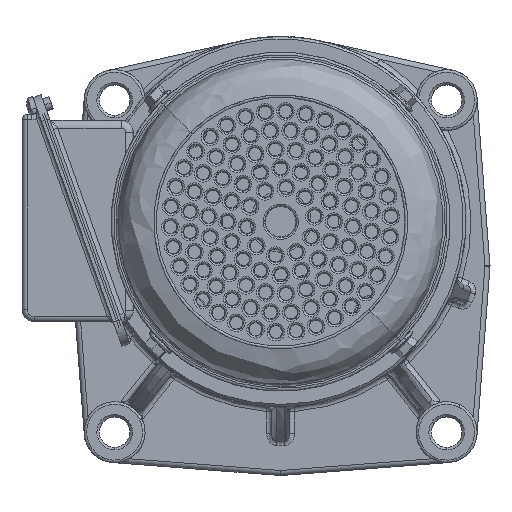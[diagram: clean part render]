
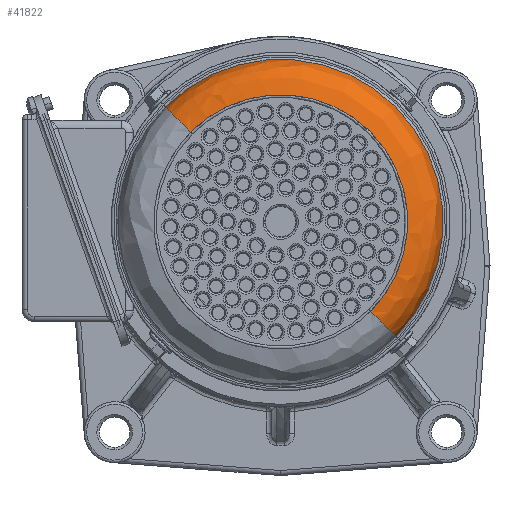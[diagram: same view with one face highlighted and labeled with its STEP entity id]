
A CAD part, front view. The second image highlights one B-rep face of the part: STEP entity #41822.
In plain terms, the highlighted free-form (B-spline) face has degree [3, 3] with [4, 4] control points.
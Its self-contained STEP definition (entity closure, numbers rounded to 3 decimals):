
#33180 = VERTEX_POINT ( 'NONE', #43461 ) ;
#33182 = VERTEX_POINT ( 'NONE', #43459 ) ;
#33185 = EDGE_CURVE ( 'NONE', #33187, #33182, #43455, .T. ) ;
#33187 = VERTEX_POINT ( 'NONE', #43447 ) ;
#33189 = VERTEX_POINT ( 'NONE', #43446 ) ;
#33294 = EDGE_CURVE ( 'NONE', #33189, #33180, #43788, .T. ) ;
#37432 = EDGE_CURVE ( 'NONE', #33182, #33180, #56438, .T. ) ;
#37600 = EDGE_CURVE ( 'NONE', #33189, #33187, #56772, .T. ) ;
#41822 = ADVANCED_FACE ( 'NONE', ( #64312 ), #64304, .T. ) ;
#41824 = EDGE_LOOP ( 'NONE', ( #41825, #41826, #41827, #41828 ) ) ;
#41825 = ORIENTED_EDGE ( 'NONE', *, *, #33185, .F. ) ;
#41826 = ORIENTED_EDGE ( 'NONE', *, *, #37600, .F. ) ;
#41827 = ORIENTED_EDGE ( 'NONE', *, *, #33294, .T. ) ;
#41828 = ORIENTED_EDGE ( 'NONE', *, *, #37432, .F. ) ;
#43446 = CARTESIAN_POINT ( 'NONE',  ( 50., 0., 43. ) ) ;
#43447 = CARTESIAN_POINT ( 'NONE',  ( -50., 0., 43. ) ) ;
#43448 = DIRECTION ( 'NONE',  ( -1., 0., 0. ) ) ;
#43450 = DIRECTION ( 'NONE',  ( 0., -1., 0. ) ) ;
#43451 = CARTESIAN_POINT ( 'NONE',  ( -50., 0., 29. ) ) ;
#43453 = AXIS2_PLACEMENT_3D ( 'NONE', #43451, #43450, #43448 ) ;
#43455 = CIRCLE ( 'NONE', #43453, 14. ) ;
#43459 = CARTESIAN_POINT ( 'NONE',  ( -64., 0., 29. ) ) ;
#43461 = CARTESIAN_POINT ( 'NONE',  ( 64., 0., 29. ) ) ;
#43783 = DIRECTION ( 'NONE',  ( 1., 0., 0. ) ) ;
#43785 = DIRECTION ( 'NONE',  ( 0., 1., 0. ) ) ;
#43786 = CARTESIAN_POINT ( 'NONE',  ( 50., 0., 29. ) ) ;
#43787 = AXIS2_PLACEMENT_3D ( 'NONE', #43786, #43785, #43783 ) ;
#43788 = CIRCLE ( 'NONE', #43787, 14. ) ;
#56434 = DIRECTION ( 'NONE',  ( 1., 0., 0. ) ) ;
#56435 = DIRECTION ( 'NONE',  ( 0., 0., -1. ) ) ;
#56436 = CARTESIAN_POINT ( 'NONE',  ( 0., 0., 29. ) ) ;
#56437 = AXIS2_PLACEMENT_3D ( 'NONE', #56436, #56435, #56434 ) ;
#56438 = CIRCLE ( 'NONE', #56437, 64. ) ;
#56770 = CARTESIAN_POINT ( 'NONE',  ( 0., 0., 43. ) ) ;
#56771 = AXIS2_PLACEMENT_3D ( 'NONE', #56770, #56836, #56835 ) ;
#56772 = CIRCLE ( 'NONE', #56771, 50. ) ;
#56835 = DIRECTION ( 'NONE',  ( 1., 0., 0. ) ) ;
#56836 = DIRECTION ( 'NONE',  ( 0., 0., 1. ) ) ;
#64294 = CARTESIAN_POINT ( 'NONE',  ( -58.201, 0., 43. ) ) ;
#64295 = CARTESIAN_POINT ( 'NONE',  ( -58.201, 116.402, 43. ) ) ;
#64296 = CARTESIAN_POINT ( 'NONE',  ( 58.201, 116.402, 43. ) ) ;
#64297 = CARTESIAN_POINT ( 'NONE',  ( 58.201, 0., 43. ) ) ;
#64298 = CARTESIAN_POINT ( 'NONE',  ( -50., 0., 43. ) ) ;
#64299 = CARTESIAN_POINT ( 'NONE',  ( -50., 100., 43. ) ) ;
#64300 = CARTESIAN_POINT ( 'NONE',  ( 50., 100., 43. ) ) ;
#64301 = CARTESIAN_POINT ( 'NONE',  ( 50., 0., 43. ) ) ;
#64304 =( BOUNDED_SURFACE ( )  B_SPLINE_SURFACE ( 3, 3, ( 
 ( #64301, #64300, #64299, #64298 ),
 ( #64297, #64296, #64295, #64294 ),
 ( #64342, #64341, #64340, #64339 ),
 ( #64338, #64337, #64336, #64335 ) ),
 .UNSPECIFIED., .F., .F., .F. ) 
 B_SPLINE_SURFACE_WITH_KNOTS ( ( 4, 4 ),
 ( 4, 4 ),
 ( 0., 1. ),
 ( 0., 1. ),
 .UNSPECIFIED. ) 
 GEOMETRIC_REPRESENTATION_ITEM ( )  RATIONAL_B_SPLINE_SURFACE ( (
 ( 1., 0.333, 0.333, 1.),
 ( 0.805, 0.268, 0.268, 0.805),
 ( 0.805, 0.268, 0.268, 0.805),
 ( 1., 0.333, 0.333, 1.) ) ) 
 REPRESENTATION_ITEM ( '' )  SURFACE ( )  );
#64312 = FACE_OUTER_BOUND ( 'NONE', #41824, .T. ) ;
#64335 = CARTESIAN_POINT ( 'NONE',  ( -64., 0., 29. ) ) ;
#64336 = CARTESIAN_POINT ( 'NONE',  ( -64., 128., 29. ) ) ;
#64337 = CARTESIAN_POINT ( 'NONE',  ( 64., 128., 29. ) ) ;
#64338 = CARTESIAN_POINT ( 'NONE',  ( 64., 0., 29. ) ) ;
#64339 = CARTESIAN_POINT ( 'NONE',  ( -64., 0., 37.201 ) ) ;
#64340 = CARTESIAN_POINT ( 'NONE',  ( -64., 128., 37.201 ) ) ;
#64341 = CARTESIAN_POINT ( 'NONE',  ( 64., 128., 37.201 ) ) ;
#64342 = CARTESIAN_POINT ( 'NONE',  ( 64., 0., 37.201 ) ) ;
